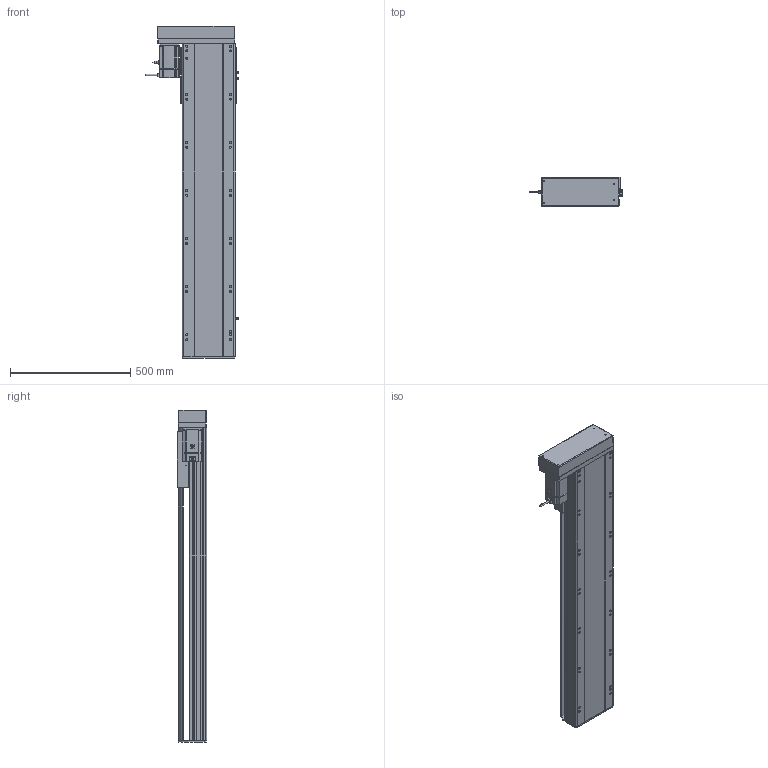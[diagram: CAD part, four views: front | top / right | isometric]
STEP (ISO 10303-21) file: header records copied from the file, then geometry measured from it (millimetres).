
FILE_DESCRIPTION (( 'STEP AP214' ), '1' );
FILE_NAME ('RTH22-XX-1000-R-M75-C4.STEP', '2025-10-25T03:12:46', ( 'Microsoft' ), ( 'Microsoft' ), 'SwSTEP 2.0', 'SolidWorks 2018', '' );
FILE_SCHEMA (( 'AUTOMOTIVE_DESIGN' ));
Length unit declared in the file: millimetre
Products named in the file (10): N_RTH22-GY-001耜裔^RTH22-XX-XX-R-M75-C4; RTH22-XX-1000-R-M75-C4; N_750W萇儂^RTH22-XX-XX-R-M75-C4; N_RTH22-L-007奻裔^RTH22-XX-XX-R-M75-C4; N_RTH22-L-011菁釱^RTH22-XX-XX-R-M75-C4; N_RTH22-R-008-P75萇儂啣^RTH22-XX-XX-R-M75-C4; N_RTH22-L-018裔赽^RTH22-XX-XX-R-M75-C4; N_OMRON EE-SX672 传感器^RTH22-XX-XX-R-M75-C4; N_RTH22-L-004-SFS25賑釱^RTH22-XX-XX-R-M75-C4; N_RTH22-GY-013外置感应片^RTH22-XX-XX-R-M75-C4
Assembly tree (11 placements, depth 2):
  RTH22-XX-1000-R-M75-C4
    N_RTH22-L-011菁釱^RTH22-XX-XX-R-M75-C4
    N_RTH22-GY-001耜裔^RTH22-XX-XX-R-M75-C4
    N_750W萇儂^RTH22-XX-XX-R-M75-C4
    N_RTH22-R-008-P75萇儂啣^RTH22-XX-XX-R-M75-C4
    N_RTH22-L-007奻裔^RTH22-XX-XX-R-M75-C4
    N_OMRON EE-SX672 传感器^RTH22-XX-XX-R-M75-C4  x3
    N_RTH22-GY-013外置感应片^RTH22-XX-XX-R-M75-C4
    N_RTH22-L-004-SFS25賑釱^RTH22-XX-XX-R-M75-C4
    N_RTH22-L-018裔赽^RTH22-XX-XX-R-M75-C4
Bounding box: 384.7 x 122 x 1379.7 mm (x, y, z)
Volume: 18928258.5 mm3; surface area: 2114105.9 mm2
Topology: 11 solids, 11 shells, 1592 faces, 4347 edges, 2803 vertices
Faces by surface type: plane 793, cylinder 462, bspline 279, cone 58
Entity records: 39967 total; most frequent: CARTESIAN_POINT 12202, ORIENTED_EDGE 5670, DIRECTION 5341, EDGE_CURVE 2835, VERTEX_POINT 1839, AXIS2_PLACEMENT_3D 1794, LINE 1753, VECTOR 1753
